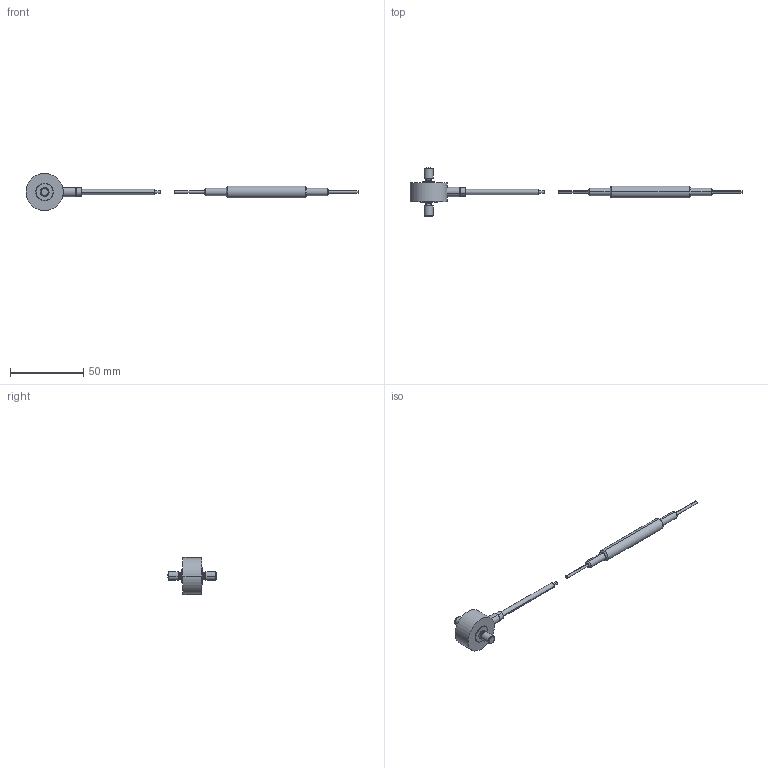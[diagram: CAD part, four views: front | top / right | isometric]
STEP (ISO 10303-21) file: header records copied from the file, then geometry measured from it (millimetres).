
FILE_DESCRIPTION(('STEP AP203'),'1');
FILE_NAME('C:/TPO v2/SharedFS/Outgoing/burster_8431-6005-v015_9dk2fitkvo5x9z2kwhk7fjjie.stp','2013-08-27T17:18:53',('TraceParts'),('TraceParts S.A.'),'XStep 1.0',' ',' ');
FILE_SCHEMA(('CONFIG_CONTROL_DESIGN'));
Length unit declared in the file: millimetre
Products named in the file (2): 1; 2
Bounding box: 226.6 x 33.4 x 25.4 mm (x, y, z)
Volume: 11121.5 mm3; surface area: 5508.4 mm2
Topology: 2 solids, 2 shells, 99 faces, 227 edges, 143 vertices
Faces by surface type: cylinder 40, cone 24, plane 18, torus 16, bspline 1
Entity records: 3054 total; most frequent: CARTESIAN_POINT 631, DIRECTION 561, ORIENTED_EDGE 448, AXIS2_PLACEMENT_3D 247, EDGE_CURVE 224, CIRCLE 147, VERTEX_POINT 141, EDGE_LOOP 111
